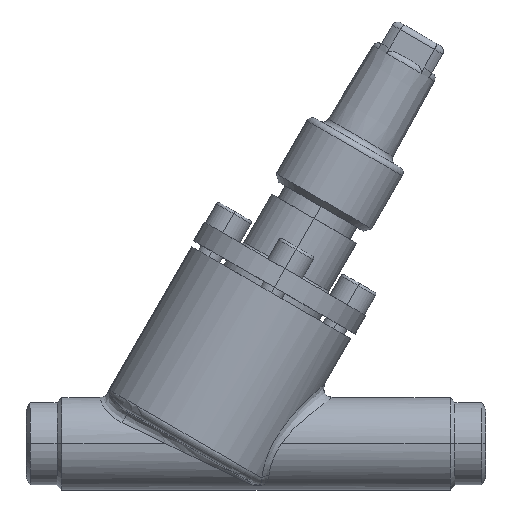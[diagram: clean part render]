
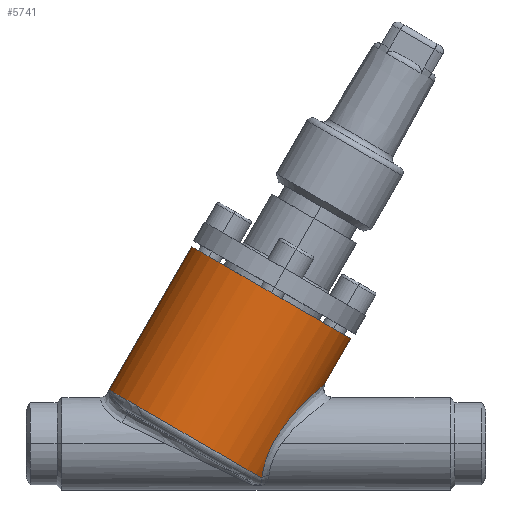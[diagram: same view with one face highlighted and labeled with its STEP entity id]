
A CAD part, top view. The second image highlights one B-rep face of the part: STEP entity #5741.
In plain terms, the highlighted cylindrical face has radius 30 mm (diameter 60 mm), a partial arc.
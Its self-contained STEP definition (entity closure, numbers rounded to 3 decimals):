
#754 = ORIENTED_EDGE ( 'NONE', *, *, #8087, .T. ) ;
#806 = VERTEX_POINT ( 'NONE', #15222 ) ;
#2451 = ORIENTED_EDGE ( 'NONE', *, *, #2680, .F. ) ;
#2606 = EDGE_LOOP ( 'NONE', ( #8051, #9169, #754, #9981, #2451 ) ) ;
#2680 = EDGE_CURVE ( 'NONE', #806, #5231, #9224, .T. ) ;
#3323 = VERTEX_POINT ( 'NONE', #12910 ) ;
#5231 = VERTEX_POINT ( 'NONE', #14433 ) ;
#5440 = EDGE_CURVE ( 'NONE', #7949, #5231, #14496, .T. ) ;
#5741 = ADVANCED_FACE ( 'NONE', ( #14645 ), #14646, .T. ) ;
#7949 = VERTEX_POINT ( 'NONE', #13006 ) ;
#8051 = ORIENTED_EDGE ( 'NONE', *, *, #12558, .F. ) ;
#8087 = EDGE_CURVE ( 'NONE', #12115, #7949, #13226, .T. ) ;
#8891 = EDGE_CURVE ( 'NONE', #3323, #12115, #14002, .T. ) ;
#9169 = ORIENTED_EDGE ( 'NONE', *, *, #8891, .T. ) ;
#9224 = LINE ( 'NONE', #9225, #9226 ) ;
#9225 = CARTESIAN_POINT ( 'NONE',  ( 105.962, 34.363, 0. ) ) ;
#9226 = VECTOR ( 'NONE', #9227, 1000. ) ;
#9227 = DIRECTION ( 'NONE',  ( -0.5, -0.866, 0. ) ) ;
#9981 = ORIENTED_EDGE ( 'NONE', *, *, #5440, .T. ) ;
#12115 = VERTEX_POINT ( 'NONE', #12820 ) ;
#12558 = EDGE_CURVE ( 'NONE', #3323, #806, #13151, .T. ) ;
#12820 = CARTESIAN_POINT ( 'NONE',  ( 27., 17.598, 0. ) ) ;
#12910 = CARTESIAN_POINT ( 'NONE',  ( 54., 64.363, 0. ) ) ;
#13006 = CARTESIAN_POINT ( 'NONE',  ( 76.85, -11.183, 11.847 ) ) ;
#13151 = CIRCLE ( 'NONE', #13152, 30. ) ;
#13152 = AXIS2_PLACEMENT_3D ( 'NONE', #13153, #13154, #13155 ) ;
#13153 = CARTESIAN_POINT ( 'NONE',  ( 79.981, 49.363, 0. ) ) ;
#13154 = DIRECTION ( 'NONE',  ( 0.5, 0.866, 0. ) ) ;
#13155 = DIRECTION ( 'NONE',  ( -0.866, 0.5, 0. ) ) ;
#13226 = CIRCLE ( 'NONE', #13227, 30. ) ;
#13227 = AXIS2_PLACEMENT_3D ( 'NONE', #13228, #13230, #13231 ) ;
#13228 = CARTESIAN_POINT ( 'NONE',  ( 52.981, 2.598, 0. ) ) ;
#13230 = DIRECTION ( 'NONE',  ( 0.5, 0.866, 0. ) ) ;
#13231 = DIRECTION ( 'NONE',  ( -0.866, 0.5, 0. ) ) ;
#14002 = LINE ( 'NONE', #14003, #14004 ) ;
#14003 = CARTESIAN_POINT ( 'NONE',  ( 54., 64.363, 0. ) ) ;
#14004 = VECTOR ( 'NONE', #14005, 1000. ) ;
#14005 = DIRECTION ( 'NONE',  ( -0.5, -0.866, 0. ) ) ;
#14433 = CARTESIAN_POINT ( 'NONE',  ( 97.438, 19.6, 0. ) ) ;
#14496 = B_SPLINE_CURVE_WITH_KNOTS ( 'NONE', 3,
 ( #14497, #14498, #14499, #14500, #14501, #14502, #14503, #14504, #14505, #14506, #14507, #14508, #14509, #14510, #14511, #14512, #14513, #14514, #14515, #14516, #14517, #14518, #14519, #14520, #14521, #14522, #14523, #14524, #14525, #14526, #14527, #14528, #14529, #14530, #14531, #14532, #14533, #14534, #14535, #14536, #14537, #14538, #14540, #14541, #14542, #14543, #14544, #14545 ),
 .UNSPECIFIED., .F., .F.,
 ( 4, 2, 2, 2, 2, 2, 2, 2, 2, 2, 2, 2, 2, 2, 2, 2, 2, 2, 2, 2, 2, 2, 2, 4 ),
 ( 0., 0.001, 0.003, 0.006, 0.007, 0.009, 0.012, 0.013, 0.015, 0.018, 0.021, 0.022, 0.023, 0.029, 0.032, 0.035, 0.037, 0.038, 0.041, 0.043, 0.044, 0.045, 0.046, 0.047 ),
 .UNSPECIFIED. ) ;
#14497 = CARTESIAN_POINT ( 'NONE',  ( 76.85, -11.183, 11.847 ) ) ;
#14498 = CARTESIAN_POINT ( 'NONE',  ( 76.899, -10.819, 12.172 ) ) ;
#14499 = CARTESIAN_POINT ( 'NONE',  ( 76.955, -10.443, 12.48 ) ) ;
#14500 = CARTESIAN_POINT ( 'NONE',  ( 77.086, -9.668, 13.062 ) ) ;
#14501 = CARTESIAN_POINT ( 'NONE',  ( 77.161, -9.268, 13.338 ) ) ;
#14502 = CARTESIAN_POINT ( 'NONE',  ( 77.413, -8.051, 14.104 ) ) ;
#14503 = CARTESIAN_POINT ( 'NONE',  ( 77.62, -7.214, 14.541 ) ) ;
#14504 = CARTESIAN_POINT ( 'NONE',  ( 77.997, -5.928, 15.093 ) ) ;
#14505 = CARTESIAN_POINT ( 'NONE',  ( 78.134, -5.494, 15.261 ) ) ;
#14506 = CARTESIAN_POINT ( 'NONE',  ( 78.432, -4.617, 15.562 ) ) ;
#14507 = CARTESIAN_POINT ( 'NONE',  ( 78.593, -4.172, 15.696 ) ) ;
#14508 = CARTESIAN_POINT ( 'NONE',  ( 79.107, -2.851, 16.045 ) ) ;
#14509 = CARTESIAN_POINT ( 'NONE',  ( 79.489, -1.977, 16.208 ) ) ;
#14510 = CARTESIAN_POINT ( 'NONE',  ( 80.122, -0.679, 16.365 ) ) ;
#14511 = CARTESIAN_POINT ( 'NONE',  ( 80.343, -0.248, 16.402 ) ) ;
#14512 = CARTESIAN_POINT ( 'NONE',  ( 80.803, 0.61, 16.449 ) ) ;
#14513 = CARTESIAN_POINT ( 'NONE',  ( 81.043, 1.037, 16.458 ) ) ;
#14514 = CARTESIAN_POINT ( 'NONE',  ( 81.779, 2.297, 16.445 ) ) ;
#14515 = CARTESIAN_POINT ( 'NONE',  ( 82.297, 3.112, 16.384 ) ) ;
#14516 = CARTESIAN_POINT ( 'NONE',  ( 83.374, 4.703, 16.171 ) ) ;
#14517 = CARTESIAN_POINT ( 'NONE',  ( 83.934, 5.479, 16.019 ) ) ;
#14518 = CARTESIAN_POINT ( 'NONE',  ( 84.801, 6.617, 15.726 ) ) ;
#14519 = CARTESIAN_POINT ( 'NONE',  ( 85.095, 6.992, 15.618 ) ) ;
#14520 = CARTESIAN_POINT ( 'NONE',  ( 85.684, 7.728, 15.382 ) ) ;
#14521 = CARTESIAN_POINT ( 'NONE',  ( 85.981, 8.09, 15.254 ) ) ;
#14522 = CARTESIAN_POINT ( 'NONE',  ( 87.472, 9.87, 14.566 ) ) ;
#14523 = CARTESIAN_POINT ( 'NONE',  ( 88.689, 11.203, 13.865 ) ) ;
#14524 = CARTESIAN_POINT ( 'NONE',  ( 90.504, 13.088, 12.555 ) ) ;
#14525 = CARTESIAN_POINT ( 'NONE',  ( 91.099, 13.689, 12.08 ) ) ;
#14526 = CARTESIAN_POINT ( 'NONE',  ( 92.261, 14.836, 11.045 ) ) ;
#14527 = CARTESIAN_POINT ( 'NONE',  ( 92.827, 15.381, 10.484 ) ) ;
#14528 = CARTESIAN_POINT ( 'NONE',  ( 93.643, 16.155, 9.565 ) ) ;
#14529 = CARTESIAN_POINT ( 'NONE',  ( 93.91, 16.406, 9.246 ) ) ;
#14530 = CARTESIAN_POINT ( 'NONE',  ( 94.43, 16.891, 8.577 ) ) ;
#14531 = CARTESIAN_POINT ( 'NONE',  ( 94.683, 17.124, 8.227 ) ) ;
#14532 = CARTESIAN_POINT ( 'NONE',  ( 95.404, 17.786, 7.147 ) ) ;
#14533 = CARTESIAN_POINT ( 'NONE',  ( 95.84, 18.18, 6.378 ) ) ;
#14534 = CARTESIAN_POINT ( 'NONE',  ( 96.402, 18.683, 5.129 ) ) ;
#14535 = CARTESIAN_POINT ( 'NONE',  ( 96.575, 18.837, 4.694 ) ) ;
#14536 = CARTESIAN_POINT ( 'NONE',  ( 96.877, 19.105, 3.803 ) ) ;
#14537 = CARTESIAN_POINT ( 'NONE',  ( 97.006, 19.22, 3.348 ) ) ;
#14538 = CARTESIAN_POINT ( 'NONE',  ( 97.217, 19.406, 2.42 ) ) ;
#14540 = CARTESIAN_POINT ( 'NONE',  ( 97.299, 19.478, 1.946 ) ) ;
#14541 = CARTESIAN_POINT ( 'NONE',  ( 97.382, 19.551, 1.218 ) ) ;
#14542 = CARTESIAN_POINT ( 'NONE',  ( 97.403, 19.57, 0.973 ) ) ;
#14543 = CARTESIAN_POINT ( 'NONE',  ( 97.431, 19.594, 0.485 ) ) ;
#14544 = CARTESIAN_POINT ( 'NONE',  ( 97.438, 19.6, 0.242 ) ) ;
#14545 = CARTESIAN_POINT ( 'NONE',  ( 97.438, 19.6, 0. ) ) ;
#14645 = FACE_OUTER_BOUND ( 'NONE', #2606, .T. ) ;
#14646 = CYLINDRICAL_SURFACE ( 'NONE', #14647, 30. ) ;
#14647 = AXIS2_PLACEMENT_3D ( 'NONE', #14648, #14650, #14651 ) ;
#14648 = CARTESIAN_POINT ( 'NONE',  ( 79.981, 49.363, 0. ) ) ;
#14650 = DIRECTION ( 'NONE',  ( -0.5, -0.866, 0. ) ) ;
#14651 = DIRECTION ( 'NONE',  ( 0.866, -0.5, 0. ) ) ;
#15222 = CARTESIAN_POINT ( 'NONE',  ( 105.962, 34.363, 0. ) ) ;
